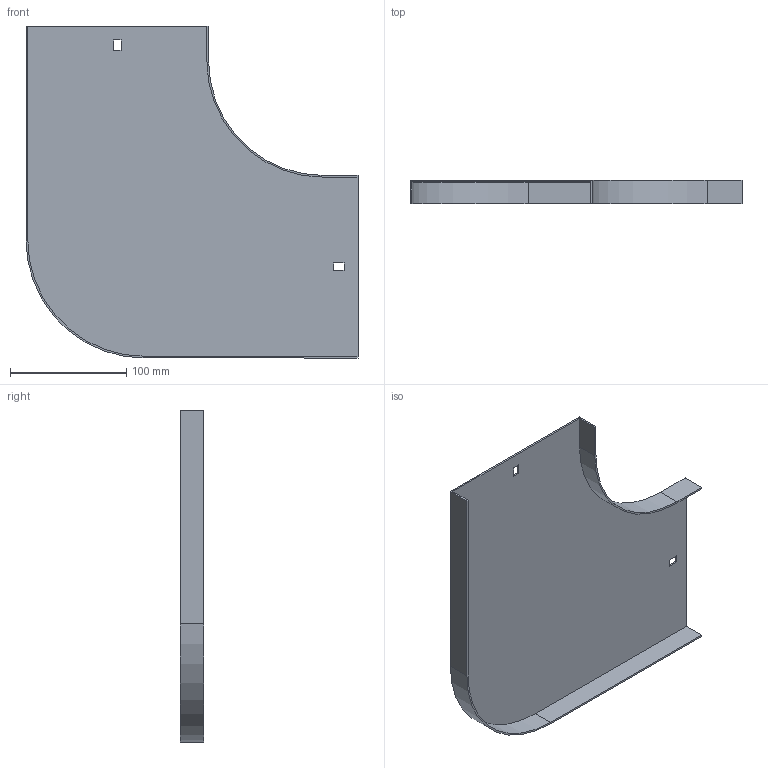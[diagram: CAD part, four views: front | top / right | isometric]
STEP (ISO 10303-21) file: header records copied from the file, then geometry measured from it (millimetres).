
FILE_DESCRIPTION (( 'STEP AP214' ), '1' );
FILE_NAME ('10G1P150.step', '2025-02-21T12:46:26', ( '' ), ( '' ), 'SwSTEP 2.0', 'SolidWorks 2023', '' );
FILE_SCHEMA (( 'AUTOMOTIVE_DESIGN' ));
Length unit declared in the file: millimetre
Products named in the file (1): 10G1P150
Bounding box: 285.5 x 20 x 285.5 mm (x, y, z)
Volume: 117723.3 mm3; surface area: 158752.6 mm2
Topology: 1 solids, 1 shells, 26 faces, 72 edges, 48 vertices
Faces by surface type: plane 22, cylinder 4
Entity records: 855 total; most frequent: CARTESIAN_POINT 147, ORIENTED_EDGE 144, DIRECTION 134, EDGE_CURVE 72, VECTOR 64, LINE 64, VERTEX_POINT 48, AXIS2_PLACEMENT_3D 35
